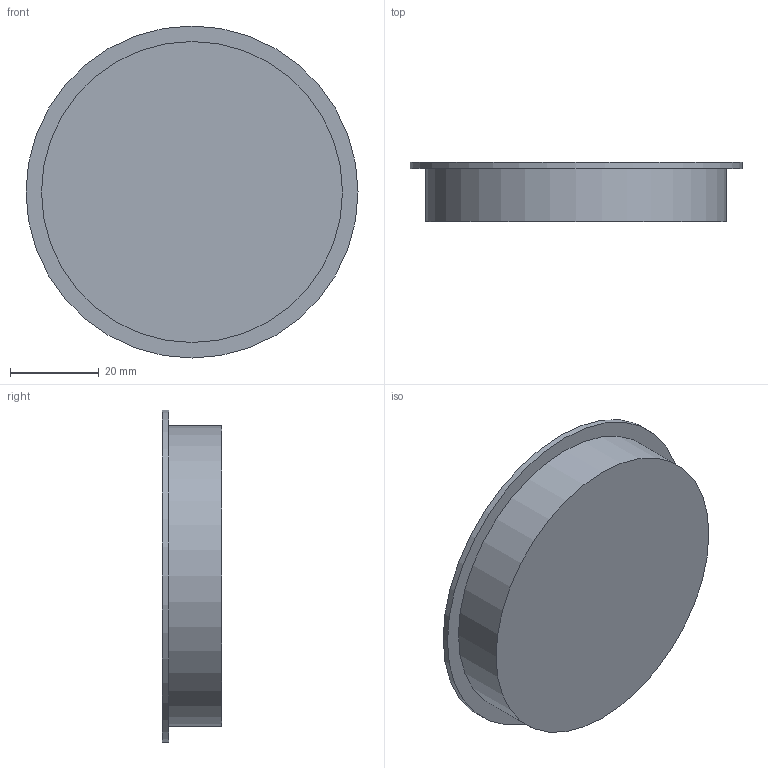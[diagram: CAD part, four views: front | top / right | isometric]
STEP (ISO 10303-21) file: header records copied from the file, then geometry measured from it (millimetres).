
FILE_DESCRIPTION (( 'STEP AP203' ), '1' );
FILE_NAME ('CAD_Eco Power L .STEP', '2020-06-23T08:56:32', ( '' ), ( '' ), 'SwSTEP 2.0', 'SolidWorks 2019', '' );
FILE_SCHEMA (( 'CONFIG_CONTROL_DESIGN' ));
Length unit declared in the file: millimetre
Products named in the file (1): CAD_Eco Power L 
Bounding box: 75 x 13.4 x 75 mm (x, y, z)
Volume: 48026 mm3; surface area: 11865.1 mm2
Topology: 1 solids, 1 shells, 7 faces, 9 edges, 6 vertices
Faces by surface type: plane 4, cylinder 3
Full cylindrical faces by diameter (mm): 51.183 x1, 68 x1, 75 x1
Entity records: 211 total; most frequent: DIRECTION 28, CARTESIAN_POINT 20, AXIS2_PLACEMENT_3D 14, EDGE_LOOP 12, ORIENTED_EDGE 12, FACE_OUTER_BOUND 10, PERSON_AND_ORGANIZATION 8, ADVANCED_FACE 7
